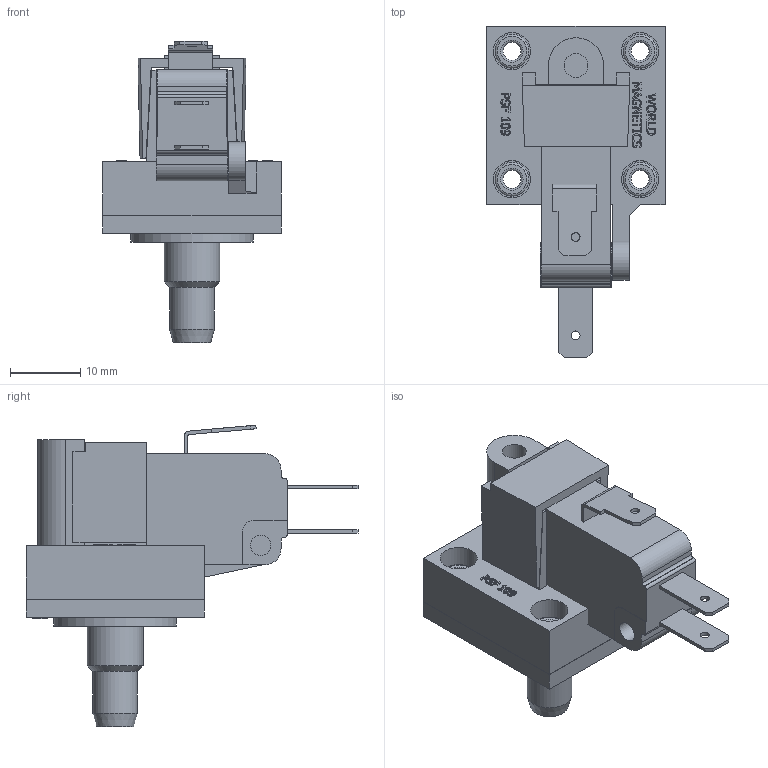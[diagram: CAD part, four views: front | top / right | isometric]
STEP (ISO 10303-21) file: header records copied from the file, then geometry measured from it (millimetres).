
FILE_DESCRIPTION((''),'2;1');
FILE_NAME('G:\DRAWINGS\SWITCH\INVENTOR DRAWINGS\WORLD MAGNETICS SWITCH\WM SALES STP FILES\PSF-109S_250_PORT.stp','2011-06-17T11:01:52',('dale'),(''),'Autodesk Inventor 2009','Autodesk Inventor 2009','');
FILE_SCHEMA(('AUTOMOTIVE_DESIGN { 1 0 10303 214 1 1 1 1 }'));
Length unit declared in the file: inch
Products named in the file (7): PSF109S_250_PORT-STP; 60929-STP; 60338-STP; 60339-STP; 60193; 60016; 60344
Assembly tree (9 placements, depth 2):
  PSF109S_250_PORT-STP
    60929-STP
    60338-STP
    60339-STP
    60193  x4
    60016
    60344
Bounding box: 25.4 x 47.27 x 42.94 mm (x, y, z)
Volume: 12721 mm3; surface area: 9723 mm2
Topology: 9 solids, 9 shells, 595 faces, 1497 edges, 987 vertices
Faces by surface type: plane 329, bspline 196, cylinder 50, torus 16, cone 4
Full cylindrical faces by diameter (mm): 1.27 x3, 2.565 x4, 2.896 x1, 3.073 x4, 3.372 x1, 4.166 x1, 4.242 x1, 4.572 x4, 4.826 x4, 5.08 x4, 6.35 x1, 7.925 x1, 17.45 x1
Entity records: 18198 total; most frequent: CARTESIAN_POINT 5788, ORIENTED_EDGE 2704, DIRECTION 1918, EDGE_CURVE 1352, VECTOR 946, LINE 946, VERTEX_POINT 926, EDGE_LOOP 666
